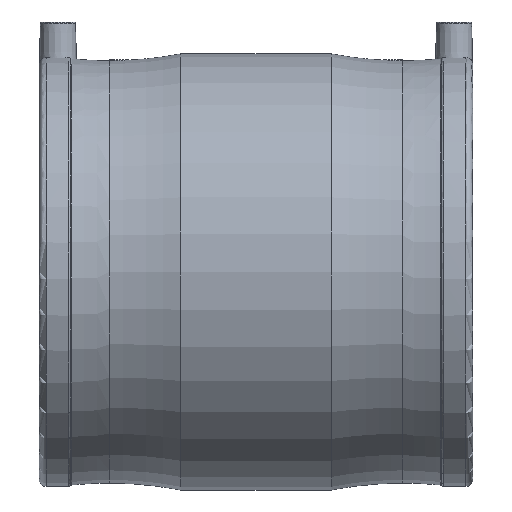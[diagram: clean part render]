
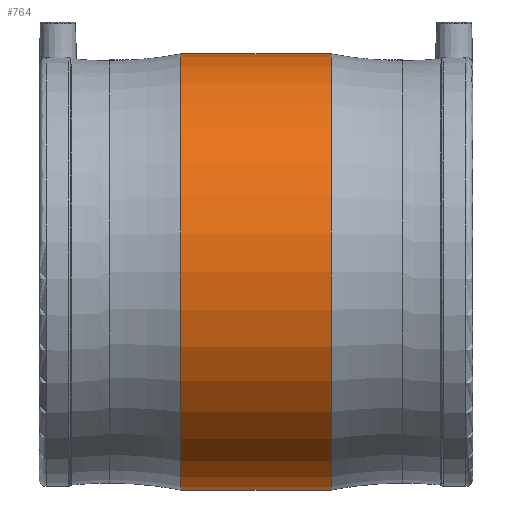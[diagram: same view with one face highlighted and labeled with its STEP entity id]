
A CAD part, front view. The second image highlights one B-rep face of the part: STEP entity #764.
In plain terms, the highlighted cylindrical face has radius 92.5 mm (diameter 185 mm), a partial arc.
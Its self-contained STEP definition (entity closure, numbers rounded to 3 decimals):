
#69 = VERTEX_POINT ( 'NONE', #2022 ) ;
#78 = CARTESIAN_POINT ( 'NONE',  ( -60., 0., -92.5 ) ) ;
#240 = CARTESIAN_POINT ( 'NONE',  ( -60., 0., 92.5 ) ) ;
#272 = VERTEX_POINT ( 'NONE', #1741 ) ;
#274 = CIRCLE ( 'NONE', #1713, 92.5 ) ;
#312 = LINE ( 'NONE', #78, #2220 ) ;
#400 = DIRECTION ( 'NONE',  ( -1., 0., 0. ) ) ;
#509 = CYLINDRICAL_SURFACE ( 'NONE', #635, 92.5 ) ;
#588 = EDGE_LOOP ( 'NONE', ( #1136, #972, #681, #2448 ) ) ;
#602 = DIRECTION ( 'NONE',  ( 0., 0., -1. ) ) ;
#635 = AXIS2_PLACEMENT_3D ( 'NONE', #1649, #2040, #1097 ) ;
#681 = ORIENTED_EDGE ( 'NONE', *, *, #1500, .T. ) ;
#764 = ADVANCED_FACE ( 'NONE', ( #1291 ), #509, .T. ) ;
#860 = CARTESIAN_POINT ( 'NONE',  ( -31.904, 0., 0. ) ) ;
#972 = ORIENTED_EDGE ( 'NONE', *, *, #1664, .T. ) ;
#996 = DIRECTION ( 'NONE',  ( -1., 0., 0. ) ) ;
#1097 = DIRECTION ( 'NONE',  ( 0., 0., 1. ) ) ;
#1136 = ORIENTED_EDGE ( 'NONE', *, *, #1843, .F. ) ;
#1244 = LINE ( 'NONE', #240, #1639 ) ;
#1291 = FACE_OUTER_BOUND ( 'NONE', #588, .T. ) ;
#1315 = AXIS2_PLACEMENT_3D ( 'NONE', #860, #1326, #1676 ) ;
#1326 = DIRECTION ( 'NONE',  ( 1., 0., 0. ) ) ;
#1414 = DIRECTION ( 'NONE',  ( -1., 0., 0. ) ) ;
#1500 = EDGE_CURVE ( 'NONE', #2198, #272, #1244, .T. ) ;
#1595 = CARTESIAN_POINT ( 'NONE',  ( 31.904, 0., 92.5 ) ) ;
#1639 = VECTOR ( 'NONE', #996, 1000. ) ;
#1649 = CARTESIAN_POINT ( 'NONE',  ( -60., 0., 0. ) ) ;
#1664 = EDGE_CURVE ( 'NONE', #2251, #2198, #274, .T. ) ;
#1676 = DIRECTION ( 'NONE',  ( 0., 0., -1. ) ) ;
#1713 = AXIS2_PLACEMENT_3D ( 'NONE', #1773, #400, #602 ) ;
#1741 = CARTESIAN_POINT ( 'NONE',  ( -31.904, 0., 92.5 ) ) ;
#1773 = CARTESIAN_POINT ( 'NONE',  ( 31.904, 0., 0. ) ) ;
#1843 = EDGE_CURVE ( 'NONE', #2251, #69, #312, .T. ) ;
#1918 = EDGE_CURVE ( 'NONE', #272, #69, #2139, .T. ) ;
#2022 = CARTESIAN_POINT ( 'NONE',  ( -31.904, 0., -92.5 ) ) ;
#2040 = DIRECTION ( 'NONE',  ( -1., 0., 0. ) ) ;
#2139 = CIRCLE ( 'NONE', #1315, 92.5 ) ;
#2198 = VERTEX_POINT ( 'NONE', #1595 ) ;
#2220 = VECTOR ( 'NONE', #1414, 1000. ) ;
#2251 = VERTEX_POINT ( 'NONE', #2360 ) ;
#2360 = CARTESIAN_POINT ( 'NONE',  ( 31.904, 0., -92.5 ) ) ;
#2448 = ORIENTED_EDGE ( 'NONE', *, *, #1918, .T. ) ;
